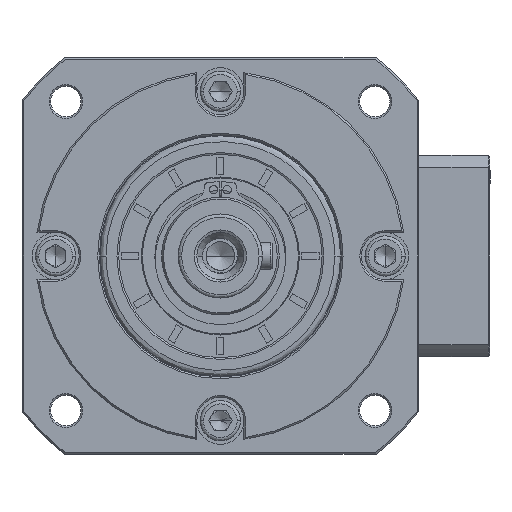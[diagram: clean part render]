
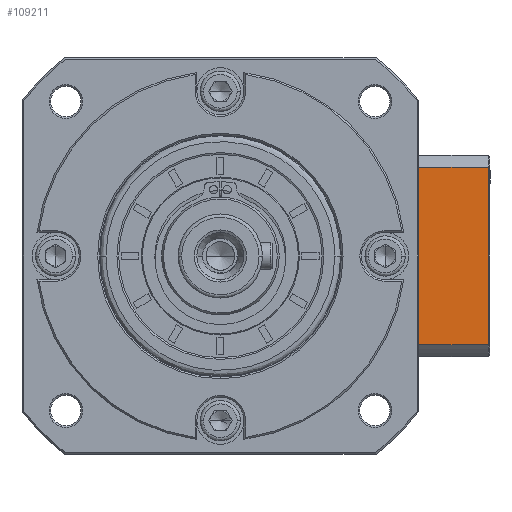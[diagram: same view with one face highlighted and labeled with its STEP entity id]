
A CAD part, left-side view. The second image highlights one B-rep face of the part: STEP entity #109211.
In plain terms, the highlighted planar face has unit normal (-1, 0, 0).
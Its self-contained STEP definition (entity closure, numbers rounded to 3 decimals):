
#4468 = B_SPLINE_CURVE_WITH_KNOTS ( 'NONE', 3,
 ( #167541, #8073, #101240, #21513, #114577, #34814 ),
 .UNSPECIFIED., .F., .F.,
 ( 4, 2, 4 ),
 ( 0., 0.005, 0.01 ),
 .UNSPECIFIED. ) ;
#4753 = PLANE ( 'NONE',  #133840 ) ;
#5330 = DIRECTION ( 'NONE',  ( 0., 1., 0. ) ) ;
#6049 = LINE ( 'NONE', #17472, #76931 ) ;
#7969 = VECTOR ( 'NONE', #117254, 1000. ) ;
#8073 = CARTESIAN_POINT ( 'NONE',  ( -94.594, 47.506, -80.213 ) ) ;
#12577 = DIRECTION ( 'NONE',  ( 0., 0., -1. ) ) ;
#15680 = VERTEX_POINT ( 'NONE', #58829 ) ;
#17472 = CARTESIAN_POINT ( 'NONE',  ( -94.594, 51.604, -73.148 ) ) ;
#18421 = CARTESIAN_POINT ( 'NONE',  ( -94.594, 51.604, -37.092 ) ) ;
#18458 = VECTOR ( 'NONE', #41250, 1000. ) ;
#19649 = VERTEX_POINT ( 'NONE', #117698 ) ;
#21053 = VECTOR ( 'NONE', #12577, 1000. ) ;
#21138 = EDGE_LOOP ( 'NONE', ( #36417, #113029, #155299, #114530, #56693, #91045, #27097, #140374 ) ) ;
#21513 = CARTESIAN_POINT ( 'NONE',  ( -94.594, 50.054, -76.027 ) ) ;
#24253 = DIRECTION ( 'NONE',  ( 0., -1., 0. ) ) ;
#26292 = CARTESIAN_POINT ( 'NONE',  ( -94.594, 23.904, -81.578 ) ) ;
#27097 = ORIENTED_EDGE ( 'NONE', *, *, #159558, .F. ) ;
#27911 = CARTESIAN_POINT ( 'NONE',  ( -94.594, 66.104, -22.62 ) ) ;
#31235 = EDGE_CURVE ( 'NONE', #15680, #90852, #138294, .T. ) ;
#34814 = CARTESIAN_POINT ( 'NONE',  ( -94.594, 51.604, -73.148 ) ) ;
#36417 = ORIENTED_EDGE ( 'NONE', *, *, #44472, .F. ) ;
#41250 = DIRECTION ( 'NONE',  ( 0., 0., -1. ) ) ;
#43661 = VERTEX_POINT ( 'NONE', #53622 ) ;
#44472 = EDGE_CURVE ( 'NONE', #84048, #15680, #139718, .T. ) ;
#45148 = CARTESIAN_POINT ( 'NONE',  ( -94.594, 50.054, -34.213 ) ) ;
#49693 = VERTEX_POINT ( 'NONE', #64341 ) ;
#53622 = CARTESIAN_POINT ( 'NONE',  ( -94.594, 51.604, -37.092 ) ) ;
#53873 = LINE ( 'NONE', #27911, #18458 ) ;
#56693 = ORIENTED_EDGE ( 'NONE', *, *, #66815, .T. ) ;
#58532 = CARTESIAN_POINT ( 'NONE',  ( -94.594, 47.506, -30.027 ) ) ;
#58829 = CARTESIAN_POINT ( 'NONE',  ( -94.594, 24.404, -81.578 ) ) ;
#64341 = CARTESIAN_POINT ( 'NONE',  ( -94.594, 46.604, -28.662 ) ) ;
#66815 = EDGE_CURVE ( 'NONE', #67926, #19649, #53873, .T. ) ;
#67926 = VERTEX_POINT ( 'NONE', #117981 ) ;
#76931 = VECTOR ( 'NONE', #110516, 1000. ) ;
#78736 = LINE ( 'NONE', #144639, #149498 ) ;
#80607 = VERTEX_POINT ( 'NONE', #98937 ) ;
#81219 = EDGE_CURVE ( 'NONE', #43661, #49693, #101541, .T. ) ;
#84048 = VERTEX_POINT ( 'NONE', #125399 ) ;
#85194 = DIRECTION ( 'NONE',  ( 1., 0., 0. ) ) ;
#86248 = FACE_OUTER_BOUND ( 'NONE', #21138, .T. ) ;
#90750 = EDGE_CURVE ( 'NONE', #67926, #43661, #114200, .T. ) ;
#90852 = VERTEX_POINT ( 'NONE', #106141 ) ;
#91045 = ORIENTED_EDGE ( 'NONE', *, *, #95381, .F. ) ;
#95381 = EDGE_CURVE ( 'NONE', #80607, #19649, #6049, .T. ) ;
#98148 = CARTESIAN_POINT ( 'NONE',  ( -94.594, 50.854, -35.637 ) ) ;
#98937 = CARTESIAN_POINT ( 'NONE',  ( -94.594, 51.604, -73.148 ) ) ;
#101240 = CARTESIAN_POINT ( 'NONE',  ( -94.594, 48.38, -78.833 ) ) ;
#101541 = B_SPLINE_CURVE_WITH_KNOTS ( 'NONE', 3,
 ( #18421, #98148, #45148, #138226, #58532, #151694 ),
 .UNSPECIFIED., .F., .F.,
 ( 4, 2, 4 ),
 ( 0., 0.005, 0.01 ),
 .UNSPECIFIED. ) ;
#102945 = VECTOR ( 'NONE', #106011, 1000. ) ;
#106011 = DIRECTION ( 'NONE',  ( 0., 1., 0. ) ) ;
#106141 = CARTESIAN_POINT ( 'NONE',  ( -94.594, 46.604, -81.578 ) ) ;
#109211 = ADVANCED_FACE ( 'NONE', ( #86248 ), #4753, .F. ) ;
#110516 = DIRECTION ( 'NONE',  ( 0., 1., 0. ) ) ;
#113029 = ORIENTED_EDGE ( 'NONE', *, *, #117481, .F. ) ;
#114200 = LINE ( 'NONE', #130590, #7969 ) ;
#114530 = ORIENTED_EDGE ( 'NONE', *, *, #90750, .F. ) ;
#114577 = CARTESIAN_POINT ( 'NONE',  ( -94.594, 50.854, -74.603 ) ) ;
#117254 = DIRECTION ( 'NONE',  ( 0., -1., 0. ) ) ;
#117481 = EDGE_CURVE ( 'NONE', #49693, #84048, #78736, .T. ) ;
#117698 = CARTESIAN_POINT ( 'NONE',  ( -94.594, 66.104, -73.148 ) ) ;
#117981 = CARTESIAN_POINT ( 'NONE',  ( -94.594, 66.104, -37.092 ) ) ;
#125399 = CARTESIAN_POINT ( 'NONE',  ( -94.594, 24.404, -28.662 ) ) ;
#130590 = CARTESIAN_POINT ( 'NONE',  ( -94.594, 23.904, -37.092 ) ) ;
#133840 = AXIS2_PLACEMENT_3D ( 'NONE', #164820, #85194, #5330 ) ;
#138226 = CARTESIAN_POINT ( 'NONE',  ( -94.594, 48.38, -31.407 ) ) ;
#138294 = LINE ( 'NONE', #26292, #102945 ) ;
#139718 = LINE ( 'NONE', #171977, #21053 ) ;
#140374 = ORIENTED_EDGE ( 'NONE', *, *, #31235, .F. ) ;
#144639 = CARTESIAN_POINT ( 'NONE',  ( -94.594, 23.904, -28.662 ) ) ;
#149498 = VECTOR ( 'NONE', #24253, 1000. ) ;
#151694 = CARTESIAN_POINT ( 'NONE',  ( -94.594, 46.604, -28.662 ) ) ;
#155299 = ORIENTED_EDGE ( 'NONE', *, *, #81219, .F. ) ;
#159558 = EDGE_CURVE ( 'NONE', #90852, #80607, #4468, .T. ) ;
#164820 = CARTESIAN_POINT ( 'NONE',  ( -94.594, 23.904, -85.12 ) ) ;
#167541 = CARTESIAN_POINT ( 'NONE',  ( -94.594, 46.604, -81.578 ) ) ;
#171977 = CARTESIAN_POINT ( 'NONE',  ( -94.594, 24.404, -85.12 ) ) ;
